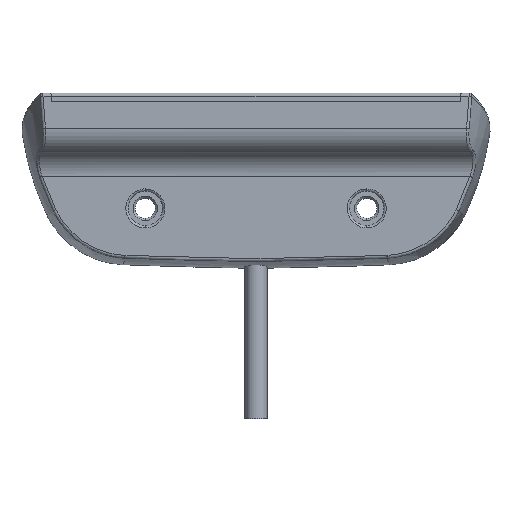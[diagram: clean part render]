
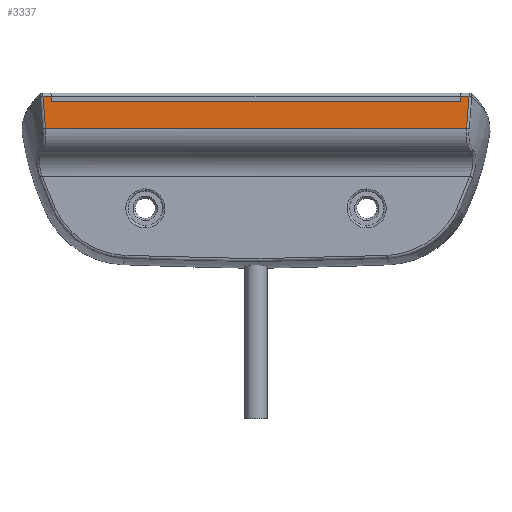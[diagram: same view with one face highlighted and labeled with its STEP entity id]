
A CAD part, front view. The second image highlights one B-rep face of the part: STEP entity #3337.
In plain terms, the highlighted planar face has unit normal (0, -1, 0).
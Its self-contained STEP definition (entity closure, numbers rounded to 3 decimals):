
#1464 = VERTEX_POINT ( 'NONE', #1821 ) ;
#1466 = VERTEX_POINT ( 'NONE', #1788 ) ;
#1486 = VERTEX_POINT ( 'NONE', #1795 ) ;
#1496 = VERTEX_POINT ( 'NONE', #1803 ) ;
#1501 = VERTEX_POINT ( 'NONE', #1775 ) ;
#1510 = VERTEX_POINT ( 'NONE', #1836 ) ;
#1527 = VERTEX_POINT ( 'NONE', #1896 ) ;
#1546 = VERTEX_POINT ( 'NONE', #1862 ) ;
#1565 = VERTEX_POINT ( 'NONE', #1854 ) ;
#1576 = VERTEX_POINT ( 'NONE', #1866 ) ;
#1775 = CARTESIAN_POINT ( 'NONE',  ( 52.331, -5.707, 28.846 ) ) ;
#1788 = CARTESIAN_POINT ( 'NONE',  ( 54.266, -5.707, 28.846 ) ) ;
#1795 = CARTESIAN_POINT ( 'NONE',  ( -41.943, -5.707, 28.846 ) ) ;
#1803 = CARTESIAN_POINT ( 'NONE',  ( -40.009, -5.707, 28.846 ) ) ;
#1821 = CARTESIAN_POINT ( 'NONE',  ( 53.707, -5.707, 21.641 ) ) ;
#1836 = CARTESIAN_POINT ( 'NONE',  ( -41.384, -5.707, 21.641 ) ) ;
#1854 = CARTESIAN_POINT ( 'NONE',  ( -39.978, -5.707, 27.745 ) ) ;
#1862 = CARTESIAN_POINT ( 'NONE',  ( -39.985, -5.707, 27.95 ) ) ;
#1866 = CARTESIAN_POINT ( 'NONE',  ( 52.307, -5.707, 27.95 ) ) ;
#1896 = CARTESIAN_POINT ( 'NONE',  ( 52.3, -5.707, 27.745 ) ) ;
#3337 = ADVANCED_FACE ( 'NONE', ( #23219 ), #27226, .F. ) ;
#3745 = B_SPLINE_CURVE_WITH_KNOTS ( 'NONE', 3,
 ( #13789, #13824, #13852, #13853, #13818, #13835, #13848 ),
 .UNSPECIFIED., .F., .F.,
 ( 4, 3, 4 ),
 ( 0., 0., 0.001 ),
 .UNSPECIFIED. ) ;
#3755 = B_SPLINE_CURVE_WITH_KNOTS ( 'NONE', 3,
 ( #14027, #14038, #14042, #14002, #14045, #14006 ),
 .UNSPECIFIED., .F., .F.,
 ( 4, 2, 4 ),
 ( 0., 0.5, 1. ),
 .UNSPECIFIED. ) ;
#3788 = B_SPLINE_CURVE_WITH_KNOTS ( 'NONE', 3,
 ( #14063, #14097, #14061, #14086, #14065, #14076 ),
 .UNSPECIFIED., .F., .F.,
 ( 4, 2, 4 ),
 ( 0., 0.5, 1. ),
 .UNSPECIFIED. ) ;
#3808 = B_SPLINE_CURVE_WITH_KNOTS ( 'NONE', 3,
 ( #13055, #13081, #13060, #13066 ),
 .UNSPECIFIED., .F., .F.,
 ( 4, 4 ),
 ( 0., 0. ),
 .UNSPECIFIED. ) ;
#3814 = B_SPLINE_CURVE_WITH_KNOTS ( 'NONE', 3,
 ( #13134, #13148, #13113, #13139 ),
 .UNSPECIFIED., .F., .F.,
 ( 4, 4 ),
 ( 0., 0. ),
 .UNSPECIFIED. ) ;
#3818 = B_SPLINE_CURVE_WITH_KNOTS ( 'NONE', 3,
 ( #12994, #12964, #12953, #12956, #12954, #12965, #12967 ),
 .UNSPECIFIED., .F., .F.,
 ( 4, 3, 4 ),
 ( 0., 0., 0.001 ),
 .UNSPECIFIED. ) ;
#5701 = EDGE_CURVE ( 'NONE', #1501, #1466, #8399, .T. ) ;
#5718 = EDGE_CURVE ( 'NONE', #1486, #1496, #8384, .T. ) ;
#5799 = EDGE_CURVE ( 'NONE', #1576, #1501, #3745, .T. ) ;
#5808 = EDGE_CURVE ( 'NONE', #1464, #1510, #8467, .T. ) ;
#5824 = EDGE_CURVE ( 'NONE', #1510, #1486, #3755, .T. ) ;
#5835 = EDGE_CURVE ( 'NONE', #1466, #1464, #3788, .T. ) ;
#5864 = EDGE_CURVE ( 'NONE', #1546, #1496, #3818, .T. ) ;
#5886 = EDGE_CURVE ( 'NONE', #1546, #1565, #3808, .T. ) ;
#5899 = EDGE_CURVE ( 'NONE', #1576, #1527, #3814, .T. ) ;
#5922 = EDGE_CURVE ( 'NONE', #1565, #1527, #8584, .T. ) ;
#6881 = EDGE_LOOP ( 'NONE', ( #19037, #19086, #19074, #19069, #19140, #19078, #19070, #19072, #19036, #19068 ) ) ;
#8384 = LINE ( 'NONE', #9612, #8396 ) ;
#8396 = VECTOR ( 'NONE', #9600, 1000. ) ;
#8399 = LINE ( 'NONE', #9465, #8409 ) ;
#8409 = VECTOR ( 'NONE', #9443, 1000. ) ;
#8467 = LINE ( 'NONE', #13899, #8470 ) ;
#8470 = VECTOR ( 'NONE', #13881, 1000. ) ;
#8584 = LINE ( 'NONE', #13227, #8585 ) ;
#8585 = VECTOR ( 'NONE', #13238, 1000. ) ;
#9443 = DIRECTION ( 'NONE',  ( 1., 0., 0. ) ) ;
#9465 = CARTESIAN_POINT ( 'NONE',  ( 6.161, -5.707, 28.846 ) ) ;
#9600 = DIRECTION ( 'NONE',  ( 1., 0., 0. ) ) ;
#9612 = CARTESIAN_POINT ( 'NONE',  ( 6.161, -5.707, 28.846 ) ) ;
#11133 = AXIS2_PLACEMENT_3D ( 'NONE', #27244, #27230, #27255 ) ;
#12953 = CARTESIAN_POINT ( 'NONE',  ( -39.995, -5.707, 28.249 ) ) ;
#12954 = CARTESIAN_POINT ( 'NONE',  ( -40.002, -5.707, 28.548 ) ) ;
#12956 = CARTESIAN_POINT ( 'NONE',  ( -39.999, -5.707, 28.398 ) ) ;
#12964 = CARTESIAN_POINT ( 'NONE',  ( -39.99, -5.707, 28.099 ) ) ;
#12965 = CARTESIAN_POINT ( 'NONE',  ( -40.006, -5.707, 28.697 ) ) ;
#12967 = CARTESIAN_POINT ( 'NONE',  ( -40.009, -5.707, 28.846 ) ) ;
#12994 = CARTESIAN_POINT ( 'NONE',  ( -39.985, -5.707, 27.95 ) ) ;
#13055 = CARTESIAN_POINT ( 'NONE',  ( -39.985, -5.707, 27.95 ) ) ;
#13060 = CARTESIAN_POINT ( 'NONE',  ( -39.98, -5.707, 27.813 ) ) ;
#13066 = CARTESIAN_POINT ( 'NONE',  ( -39.978, -5.707, 27.745 ) ) ;
#13081 = CARTESIAN_POINT ( 'NONE',  ( -39.983, -5.707, 27.882 ) ) ;
#13113 = CARTESIAN_POINT ( 'NONE',  ( 52.303, -5.707, 27.813 ) ) ;
#13134 = CARTESIAN_POINT ( 'NONE',  ( 52.307, -5.707, 27.95 ) ) ;
#13139 = CARTESIAN_POINT ( 'NONE',  ( 52.3, -5.707, 27.745 ) ) ;
#13148 = CARTESIAN_POINT ( 'NONE',  ( 52.305, -5.707, 27.882 ) ) ;
#13227 = CARTESIAN_POINT ( 'NONE',  ( 6.161, -5.707, 27.745 ) ) ;
#13238 = DIRECTION ( 'NONE',  ( 1., 0., 0. ) ) ;
#13789 = CARTESIAN_POINT ( 'NONE',  ( 52.307, -5.707, 27.95 ) ) ;
#13818 = CARTESIAN_POINT ( 'NONE',  ( 52.325, -5.707, 28.548 ) ) ;
#13824 = CARTESIAN_POINT ( 'NONE',  ( 52.312, -5.707, 28.099 ) ) ;
#13835 = CARTESIAN_POINT ( 'NONE',  ( 52.328, -5.707, 28.697 ) ) ;
#13848 = CARTESIAN_POINT ( 'NONE',  ( 52.331, -5.707, 28.846 ) ) ;
#13852 = CARTESIAN_POINT ( 'NONE',  ( 52.317, -5.707, 28.249 ) ) ;
#13853 = CARTESIAN_POINT ( 'NONE',  ( 52.321, -5.707, 28.398 ) ) ;
#13881 = DIRECTION ( 'NONE',  ( -1., 0., 0. ) ) ;
#13899 = CARTESIAN_POINT ( 'NONE',  ( 6.161, -5.707, 21.641 ) ) ;
#14002 = CARTESIAN_POINT ( 'NONE',  ( -41.864, -5.707, 26.447 ) ) ;
#14006 = CARTESIAN_POINT ( 'NONE',  ( -41.943, -5.707, 28.846 ) ) ;
#14027 = CARTESIAN_POINT ( 'NONE',  ( -41.384, -5.707, 21.641 ) ) ;
#14038 = CARTESIAN_POINT ( 'NONE',  ( -41.549, -5.707, 22.843 ) ) ;
#14042 = CARTESIAN_POINT ( 'NONE',  ( -41.678, -5.707, 24.045 ) ) ;
#14045 = CARTESIAN_POINT ( 'NONE',  ( -41.921, -5.707, 27.647 ) ) ;
#14061 = CARTESIAN_POINT ( 'NONE',  ( 54.186, -5.707, 26.447 ) ) ;
#14063 = CARTESIAN_POINT ( 'NONE',  ( 54.266, -5.707, 28.846 ) ) ;
#14065 = CARTESIAN_POINT ( 'NONE',  ( 53.872, -5.707, 22.843 ) ) ;
#14076 = CARTESIAN_POINT ( 'NONE',  ( 53.707, -5.707, 21.641 ) ) ;
#14086 = CARTESIAN_POINT ( 'NONE',  ( 54., -5.707, 24.045 ) ) ;
#14097 = CARTESIAN_POINT ( 'NONE',  ( 54.243, -5.707, 27.647 ) ) ;
#19036 = ORIENTED_EDGE ( 'NONE', *, *, #5799, .F. ) ;
#19037 = ORIENTED_EDGE ( 'NONE', *, *, #5922, .F. ) ;
#19068 = ORIENTED_EDGE ( 'NONE', *, *, #5899, .T. ) ;
#19069 = ORIENTED_EDGE ( 'NONE', *, *, #5718, .F. ) ;
#19070 = ORIENTED_EDGE ( 'NONE', *, *, #5835, .F. ) ;
#19072 = ORIENTED_EDGE ( 'NONE', *, *, #5701, .F. ) ;
#19074 = ORIENTED_EDGE ( 'NONE', *, *, #5864, .T. ) ;
#19078 = ORIENTED_EDGE ( 'NONE', *, *, #5808, .F. ) ;
#19086 = ORIENTED_EDGE ( 'NONE', *, *, #5886, .F. ) ;
#19140 = ORIENTED_EDGE ( 'NONE', *, *, #5824, .F. ) ;
#23219 = FACE_OUTER_BOUND ( 'NONE', #6881, .T. ) ;
#27226 = PLANE ( 'NONE',  #11133 ) ;
#27230 = DIRECTION ( 'NONE',  ( 0., 1., 0. ) ) ;
#27244 = CARTESIAN_POINT ( 'NONE',  ( 54.843, -5.707, 21.641 ) ) ;
#27255 = DIRECTION ( 'NONE',  ( -1., 0., 0. ) ) ;
